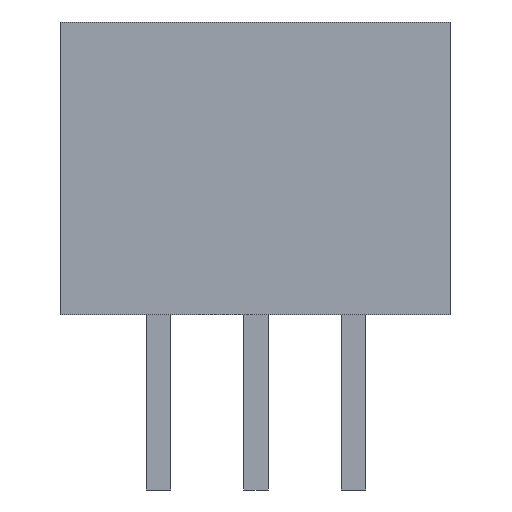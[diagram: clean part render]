
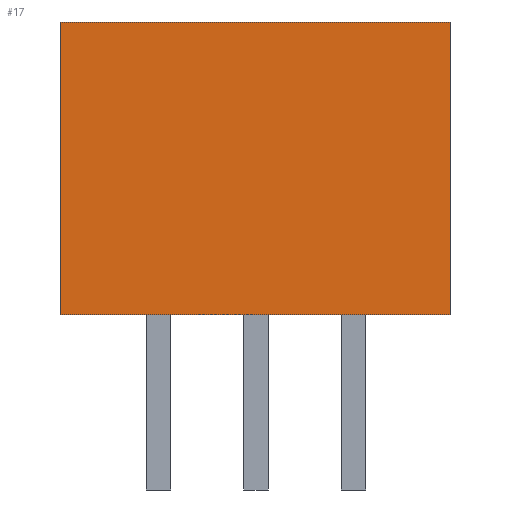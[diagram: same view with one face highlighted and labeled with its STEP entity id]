
A CAD part, left-side view. The second image highlights one B-rep face of the part: STEP entity #17.
In plain terms, the highlighted planar face has unit normal (-1, 0, 0).
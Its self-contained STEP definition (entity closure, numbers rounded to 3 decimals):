
#17 = ADVANCED_FACE('',(#18),#32,.F.);
#18 = FACE_BOUND('',#19,.F.);
#19 = EDGE_LOOP('',(#20,#55,#83,#111));
#20 = ORIENTED_EDGE('',*,*,#21,.F.);
#21 = EDGE_CURVE('',#22,#24,#26,.T.);
#22 = VERTEX_POINT('',#23);
#23 = CARTESIAN_POINT('',(0.,0.,0.));
#24 = VERTEX_POINT('',#25);
#25 = CARTESIAN_POINT('',(0.,0.,6.));
#26 = SURFACE_CURVE('',#27,(#31,#43),.PCURVE_S1.);
#27 = LINE('',#28,#29);
#28 = CARTESIAN_POINT('',(0.,0.,0.));
#29 = VECTOR('',#30,1.);
#30 = DIRECTION('',(0.,0.,1.));
#31 = PCURVE('',#32,#37);
#32 = PLANE('',#33);
#33 = AXIS2_PLACEMENT_3D('',#34,#35,#36);
#34 = CARTESIAN_POINT('',(0.,0.,0.));
#35 = DIRECTION('',(1.,0.,0.));
#36 = DIRECTION('',(0.,0.,1.));
#37 = DEFINITIONAL_REPRESENTATION('',(#38),#42);
#38 = LINE('',#39,#40);
#39 = CARTESIAN_POINT('',(0.,0.));
#40 = VECTOR('',#41,1.);
#41 = DIRECTION('',(1.,0.));
#42 = ( GEOMETRIC_REPRESENTATION_CONTEXT(2) 
PARAMETRIC_REPRESENTATION_CONTEXT() REPRESENTATION_CONTEXT('2D SPACE',''
  ) );
#43 = PCURVE('',#44,#49);
#44 = PLANE('',#45);
#45 = AXIS2_PLACEMENT_3D('',#46,#47,#48);
#46 = CARTESIAN_POINT('',(0.,0.,0.));
#47 = DIRECTION('',(0.,1.,0.));
#48 = DIRECTION('',(0.,0.,1.));
#49 = DEFINITIONAL_REPRESENTATION('',(#50),#54);
#50 = LINE('',#51,#52);
#51 = CARTESIAN_POINT('',(0.,0.));
#52 = VECTOR('',#53,1.);
#53 = DIRECTION('',(1.,0.));
#54 = ( GEOMETRIC_REPRESENTATION_CONTEXT(2) 
PARAMETRIC_REPRESENTATION_CONTEXT() REPRESENTATION_CONTEXT('2D SPACE',''
  ) );
#55 = ORIENTED_EDGE('',*,*,#56,.T.);
#56 = EDGE_CURVE('',#22,#57,#59,.T.);
#57 = VERTEX_POINT('',#58);
#58 = CARTESIAN_POINT('',(0.,8.,0.));
#59 = SURFACE_CURVE('',#60,(#64,#71),.PCURVE_S1.);
#60 = LINE('',#61,#62);
#61 = CARTESIAN_POINT('',(0.,0.,0.));
#62 = VECTOR('',#63,1.);
#63 = DIRECTION('',(0.,1.,0.));
#64 = PCURVE('',#32,#65);
#65 = DEFINITIONAL_REPRESENTATION('',(#66),#70);
#66 = LINE('',#67,#68);
#67 = CARTESIAN_POINT('',(0.,0.));
#68 = VECTOR('',#69,1.);
#69 = DIRECTION('',(0.,-1.));
#70 = ( GEOMETRIC_REPRESENTATION_CONTEXT(2) 
PARAMETRIC_REPRESENTATION_CONTEXT() REPRESENTATION_CONTEXT('2D SPACE',''
  ) );
#71 = PCURVE('',#72,#77);
#72 = PLANE('',#73);
#73 = AXIS2_PLACEMENT_3D('',#74,#75,#76);
#74 = CARTESIAN_POINT('',(0.,0.,0.));
#75 = DIRECTION('',(0.,0.,1.));
#76 = DIRECTION('',(1.,0.,0.));
#77 = DEFINITIONAL_REPRESENTATION('',(#78),#82);
#78 = LINE('',#79,#80);
#79 = CARTESIAN_POINT('',(0.,0.));
#80 = VECTOR('',#81,1.);
#81 = DIRECTION('',(0.,1.));
#82 = ( GEOMETRIC_REPRESENTATION_CONTEXT(2) 
PARAMETRIC_REPRESENTATION_CONTEXT() REPRESENTATION_CONTEXT('2D SPACE',''
  ) );
#83 = ORIENTED_EDGE('',*,*,#84,.T.);
#84 = EDGE_CURVE('',#57,#85,#87,.T.);
#85 = VERTEX_POINT('',#86);
#86 = CARTESIAN_POINT('',(0.,8.,6.));
#87 = SURFACE_CURVE('',#88,(#92,#99),.PCURVE_S1.);
#88 = LINE('',#89,#90);
#89 = CARTESIAN_POINT('',(0.,8.,0.));
#90 = VECTOR('',#91,1.);
#91 = DIRECTION('',(0.,0.,1.));
#92 = PCURVE('',#32,#93);
#93 = DEFINITIONAL_REPRESENTATION('',(#94),#98);
#94 = LINE('',#95,#96);
#95 = CARTESIAN_POINT('',(0.,-8.));
#96 = VECTOR('',#97,1.);
#97 = DIRECTION('',(1.,0.));
#98 = ( GEOMETRIC_REPRESENTATION_CONTEXT(2) 
PARAMETRIC_REPRESENTATION_CONTEXT() REPRESENTATION_CONTEXT('2D SPACE',''
  ) );
#99 = PCURVE('',#100,#105);
#100 = PLANE('',#101);
#101 = AXIS2_PLACEMENT_3D('',#102,#103,#104);
#102 = CARTESIAN_POINT('',(0.,8.,0.));
#103 = DIRECTION('',(0.,1.,0.));
#104 = DIRECTION('',(0.,0.,1.));
#105 = DEFINITIONAL_REPRESENTATION('',(#106),#110);
#106 = LINE('',#107,#108);
#107 = CARTESIAN_POINT('',(0.,0.));
#108 = VECTOR('',#109,1.);
#109 = DIRECTION('',(1.,0.));
#110 = ( GEOMETRIC_REPRESENTATION_CONTEXT(2) 
PARAMETRIC_REPRESENTATION_CONTEXT() REPRESENTATION_CONTEXT('2D SPACE',''
  ) );
#111 = ORIENTED_EDGE('',*,*,#112,.F.);
#112 = EDGE_CURVE('',#24,#85,#113,.T.);
#113 = SURFACE_CURVE('',#114,(#118,#125),.PCURVE_S1.);
#114 = LINE('',#115,#116);
#115 = CARTESIAN_POINT('',(0.,0.,6.));
#116 = VECTOR('',#117,1.);
#117 = DIRECTION('',(0.,1.,0.));
#118 = PCURVE('',#32,#119);
#119 = DEFINITIONAL_REPRESENTATION('',(#120),#124);
#120 = LINE('',#121,#122);
#121 = CARTESIAN_POINT('',(6.,0.));
#122 = VECTOR('',#123,1.);
#123 = DIRECTION('',(0.,-1.));
#124 = ( GEOMETRIC_REPRESENTATION_CONTEXT(2) 
PARAMETRIC_REPRESENTATION_CONTEXT() REPRESENTATION_CONTEXT('2D SPACE',''
  ) );
#125 = PCURVE('',#126,#131);
#126 = PLANE('',#127);
#127 = AXIS2_PLACEMENT_3D('',#128,#129,#130);
#128 = CARTESIAN_POINT('',(0.,0.,6.));
#129 = DIRECTION('',(0.,0.,1.));
#130 = DIRECTION('',(1.,0.,0.));
#131 = DEFINITIONAL_REPRESENTATION('',(#132),#136);
#132 = LINE('',#133,#134);
#133 = CARTESIAN_POINT('',(0.,0.));
#134 = VECTOR('',#135,1.);
#135 = DIRECTION('',(0.,1.));
#136 = ( GEOMETRIC_REPRESENTATION_CONTEXT(2) 
PARAMETRIC_REPRESENTATION_CONTEXT() REPRESENTATION_CONTEXT('2D SPACE',''
  ) );
